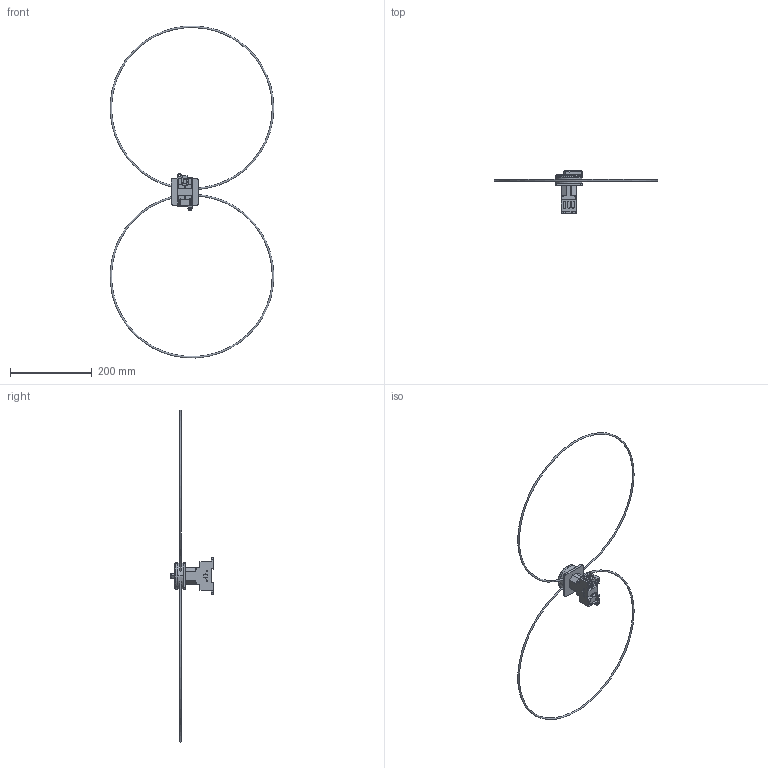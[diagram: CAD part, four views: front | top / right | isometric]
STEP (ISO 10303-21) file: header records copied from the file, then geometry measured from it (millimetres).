
FILE_DESCRIPTION((''),'2;1');
FILE_NAME('CDF1-32_ASM','2023-08-25T',('xiaokai.shi'),(''),'PRO/ENGINEER BY PARAMETRIC TECHNOLOGY CORPORATION, 2015440','PRO/ENGINEER BY PARAMETRIC TECHNOLOGY CORPORATION, 2015440','');
FILE_SCHEMA(('CONFIG_CONTROL_DESIGN'));
Products named in the file (1): CDF1-32_ASM
Bounding box: 401.61 x 104 x 814.4 mm (x, y, z)
Surface area: 76336.4 mm2 (no closed solid volume)
Topology: 0 solids, 0 shells, 582 faces, 3080 edges, 3076 vertices
Faces by surface type: bspline 575, torus 7
Entity records: 44621 total; most frequent: CARTESIAN_POINT 16211, DIRECTION 4391, TRIMMED_CURVE 4162, VECTOR 3947, LINE 3947, DEFINITIONAL_REPRESENTATION 3072, PCURVE 3072, COMPOSITE_CURVE_SEGMENT 3072
